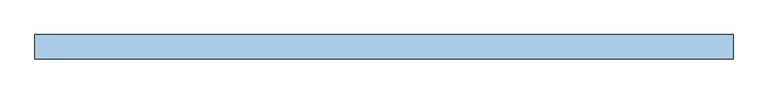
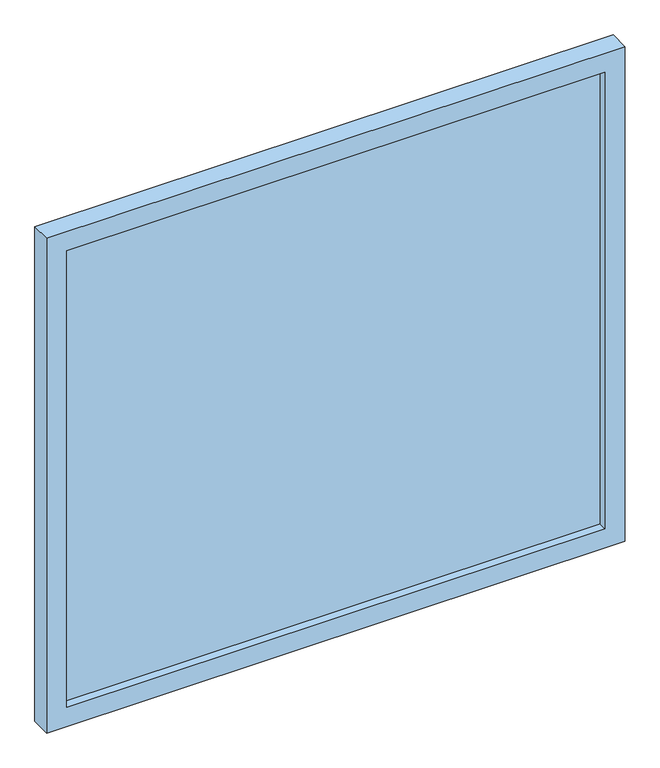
"""IFC4 building model written with IfcOpenShell, lengths in millimetres: window geometry, 固定窗-矩形- (1) : 171.5 * 155 cm."""

from ifc_helpers import new_model, si_unit, frame, origin, place, context, project, spatial, polyline, outline, extrude, source, transform, mapped, element, save


def window_e3a91f63(model_context):
    return source(origin(), model_context, "Body", "SweptSolid", [
        extrude(outline(polyline([(2550.0, 857.5), (2550.0, -857.5), (1000.0, -857.5), (1000.0, 857.5), (2550.0, 857.5)]), holes=[polyline([(2490.0, 797.5), (1060.0, 797.5), (1060.0, -797.5), (2490.0, -797.5), (2490.0, 797.5)])]), frame((0.0, -60.0, 0.0), z_axis=(0.0, 1.0, 0.0), x_axis=(0.0, 0.0, 1.0)), (0.0, 0.0, 1.0), 60.0),
        extrude(outline(polyline([(-797.5, -25.0), (797.5, -25.0), (797.5, -35.0), (-797.5, -35.0), (-797.5, -25.0)])), frame((0.0, 0.0, 1060.0), z_axis=(0.0, 0.0, 1.0), x_axis=(1.0, 0.0, 0.0)), (0.0, 0.0, 1.0), 1430.0),
    ])


if __name__ == "__main__":
    model = new_model("IFC4")
    model_context = context("Model", 3, world=origin())
    ifc_project = project(units=[si_unit("LENGTHUNIT", "METRE", prefix="MILLI")], contexts=[model_context])
    site = spatial("IfcSite", under=ifc_project)
    building = spatial("IfcBuilding", under=site)
    placement = place(None, origin())
    window_shape = window_e3a91f63(model_context)
    element("IfcWindow", 1, ObjectType="固定窗-矩形- (1) : 171.5 * 155 cm", at=placement, inside=building, context=model_context, shape_type="MappedRepresentation", body=[
        mapped(window_shape, transform((0.0, 0.0, 0.0), x_axis=(1.0, 0.0, 0.0), y_axis=(0.0, 1.0, 0.0), z_axis=(0.0, 0.0, 1.0))),
    ])
    save(model, "model.ifc")
